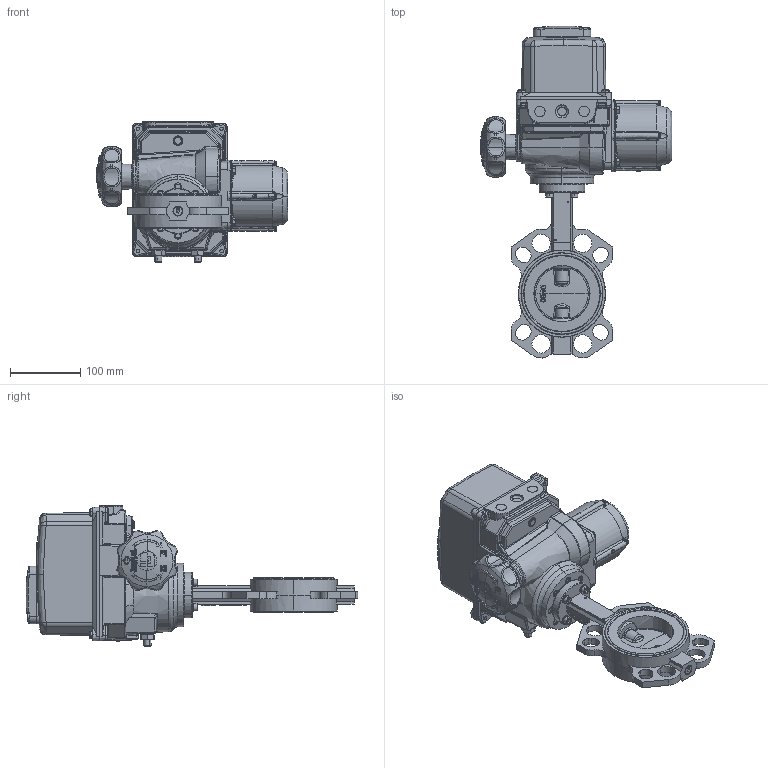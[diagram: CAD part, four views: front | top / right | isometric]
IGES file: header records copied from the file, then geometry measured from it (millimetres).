
Start section: SolidWorks IGES file using NURBS representation for surfaces
Global section: file name: H:\BE BIBLIOTHEQUE 3D\Projet_Biblio3D_2016\FSK\VPI\VPI-B04\VPI-B24 DN80.Igs; native system: SolidWorks 2014; preprocessor: SolidWorks 2014; author: a.cartier; date: 160929.165618; units: millimetre
Bounding box: 272.5 x 472.24 x 199.8 mm (x, y, z)
Volume: 5099462.5 mm3; surface area: 345165.1 mm2
Topology: 14 solids, 14 shells, 2926 faces, 7663 edges, 4781 vertices
Faces by surface type: bspline 2926
